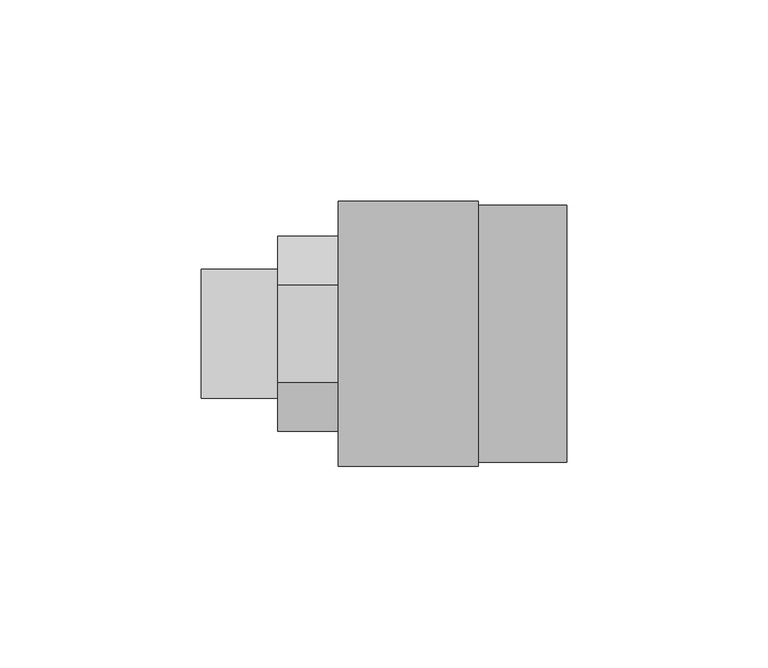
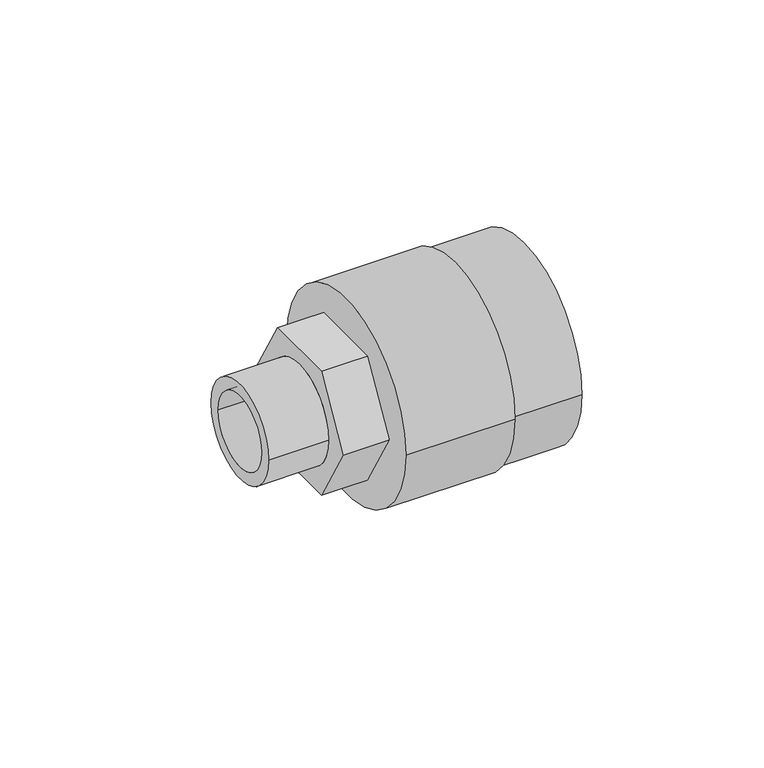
"""IFC4 building model written with IfcOpenShell, lengths in millimetres: pipe fitting geometry, NIRON RED termofusion roscado enlace rosca macho hexagonal : Estándar."""

from ifc_helpers import new_model, si_unit, point, frame, origin, origin_2d, place, context, project, spatial, polyline, circle_curve, trimmed, segment, composite_curve, outline, extrude, source, transform, mapped, element, save
from ifc_brep_helpers import plane_surface, cylinder_surface, revolved_surface, advanced_brep


def pipe_fitting_6e0105d2(model_context):
    return source(origin(), model_context, "Body", "SolidModel", [
        extrude(outline(composite_curve([segment(trimmed(circle_curve(origin_2d(), 16.0), [point((-16.0, 0.0))], [point((16.0, 0.0))], False, "CARTESIAN"), True, "CONTINUOUS"), segment(trimmed(circle_curve(origin_2d(), 16.0), [point((16.0, 0.0))], [point((-16.0, 0.0))], False, "CARTESIAN"), True, "CONTINUOUS")], self_intersect=False), holes=[composite_curve([segment(trimmed(circle_curve(origin_2d(), 12.0), [point((-12.0, 0.0))], [point((12.0, 0.0))], True, "CARTESIAN"), True, "CONTINUOUS"), segment(trimmed(circle_curve(origin_2d(), 12.0), [point((12.0, 0.0))], [point((-12.0, 0.0))], True, "CARTESIAN"), True, "CONTINUOUS")], self_intersect=False)]), frame((-19.1, 0.0, 0.0), z_axis=(1.0, 0.0, 0.0), x_axis=(0.0, 1.0, 0.0)), (0.0, 0.0, 1.0), 19.1),
        advanced_brep(
        [(49.9, 33.0, 0.0), (49.9, -33.0, 0.0), (15.0, 33.0, 0.0), (15.0, -33.0, 0.0), (15.0, -16.0, 0.0), (15.0, 16.0, 0.0), (23.7, 16.0, 0.0), (23.7, -16.0, 0.0)],
        [
            (0, 1, circle_curve(frame((49.9, 0.0, 0.0), z_axis=(1.0, 0.0, 0.0), x_axis=(0.0, -1.0, 0.0)), 33.0)),
            (1, 0, circle_curve(frame((49.9, 0.0, 0.0), z_axis=(1.0, 0.0, 0.0), x_axis=(0.0, -1.0, 0.0)), 33.0)),
            (2, 3, circle_curve(frame((15.0, 0.0, 0.0), z_axis=(-1.0, 0.0, 0.0), x_axis=(0.0, -1.0, 0.0)), 33.0)),
            (3, 2, circle_curve(frame((15.0, 0.0, 0.0), z_axis=(-1.0, 0.0, 0.0), x_axis=(0.0, -1.0, 0.0)), 33.0)),
            (4, 5, circle_curve(frame((15.0, 0.0, 0.0), z_axis=(1.0, 0.0, 0.0), x_axis=(0.0, -1.0, 0.0)), 16.0)),
            (5, 4, circle_curve(frame((15.0, 0.0, 0.0), z_axis=(1.0, 0.0, 0.0), x_axis=(0.0, -1.0, 0.0)), 16.0)),
            (1, 3),
            (2, 0),
            (6, 7, circle_curve(frame((23.7, 0.0, 0.0), z_axis=(-1.0, 0.0, 0.0), x_axis=(0.0, -1.0, 0.0)), 16.0)),
            (7, 6, circle_curve(frame((23.7, 0.0, 0.0), z_axis=(-1.0, 0.0, 0.0), x_axis=(0.0, -1.0, 0.0)), 16.0)),
            (6, 5),
            (4, 7),
        ],
        [
            plane_surface(frame((49.9, -33.0, 0.0), z_axis=(1.0, 0.0, 0.0), x_axis=(0.0, 0.0, -1.0))),
            plane_surface(frame((15.0, -33.0, 0.0), z_axis=(-1.0, 0.0, 0.0), x_axis=(0.0, 0.0, 1.0))),
            cylinder_surface(frame((49.9, 0.0, 0.0), z_axis=(-1.0, 0.0, 0.0), x_axis=(0.0, -1.0, 0.0)), 33.0),
            plane_surface(frame((23.7, -16.0, 0.0), z_axis=(-1.0, 0.0, 0.0), x_axis=(0.0, 0.0, -1.0))),
            revolved_surface(polyline([(15.0, -16.0, 0.0), (23.7, -16.0, 0.0)]), (23.7, 0.0, 0.0), (-1.0, 0.0, 0.0)),
        ],
        [
            (0, [[1, 2]]),
            (1, [[3, 4], [5, 6]]),
            (2, [[-2, 7, -3, 8]]),
            (2, [[-1, -8, -4, -7]]),
            (3, [[9, 10]]),
            (4, [[-9, 11, -5, 12]]),
            (4, [[-10, -12, -6, -11]]),
        ],
    ),
        advanced_brep(
        [(15.0, 32.0, 0.0), (15.0, -32.0, 0.0), (15.0, -16.0, 0.0), (15.0, 16.0, 0.0), (71.9, 32.0, 0.0), (71.9, -32.0, 0.0), (23.7, 16.0, 0.0), (23.7, -16.0, 0.0)],
        [
            (0, 1, circle_curve(frame((15.0, 0.0, 0.0), z_axis=(-1.0, 0.0, 0.0), x_axis=(0.0, -1.0, 0.0)), 32.0)),
            (1, 0, circle_curve(frame((15.0, 0.0, 0.0), z_axis=(-1.0, 0.0, 0.0), x_axis=(0.0, -1.0, 0.0)), 32.0)),
            (2, 3, circle_curve(frame((15.0, 0.0, 0.0), z_axis=(1.0, 0.0, 0.0), x_axis=(0.0, -1.0, 0.0)), 16.0)),
            (3, 2, circle_curve(frame((15.0, 0.0, 0.0), z_axis=(1.0, 0.0, 0.0), x_axis=(0.0, -1.0, 0.0)), 16.0)),
            (4, 5, circle_curve(frame((71.9, 0.0, 0.0), z_axis=(1.0, 0.0, 0.0), x_axis=(0.0, -1.0, 0.0)), 32.0)),
            (5, 4, circle_curve(frame((71.9, 0.0, 0.0), z_axis=(1.0, 0.0, 0.0), x_axis=(0.0, -1.0, 0.0)), 32.0)),
            (0, 4),
            (5, 1),
            (6, 7, circle_curve(frame((23.7, 0.0, 0.0), z_axis=(-1.0, 0.0, 0.0), x_axis=(0.0, -1.0, 0.0)), 16.0)),
            (7, 6, circle_curve(frame((23.7, 0.0, 0.0), z_axis=(-1.0, 0.0, 0.0), x_axis=(0.0, -1.0, 0.0)), 16.0)),
            (6, 3),
            (2, 7),
        ],
        [
            plane_surface(frame((15.0, -32.0, 0.0), z_axis=(-1.0, 0.0, 0.0), x_axis=(0.0, 0.0, 1.0))),
            plane_surface(frame((71.9, -32.0, 0.0), z_axis=(1.0, 0.0, 0.0), x_axis=(0.0, 0.0, -1.0))),
            cylinder_surface(frame((71.9, 0.0, 0.0), z_axis=(-1.0, 0.0, 0.0), x_axis=(0.0, -1.0, 0.0)), 32.0),
            plane_surface(frame((23.7, -16.0, 0.0), z_axis=(-1.0, 0.0, 0.0), x_axis=(0.0, 0.0, -1.0))),
            revolved_surface(polyline([(15.0, -16.0, 0.0), (23.7, -16.0, 0.0)]), (23.7, 0.0, 0.0), (-1.0, 0.0, 0.0)),
        ],
        [
            (0, [[1, 2], [3, 4]]),
            (1, [[5, 6]]),
            (2, [[-1, 7, -6, 8]]),
            (2, [[-2, -8, -5, -7]]),
            (3, [[9, 10]]),
            (4, [[-9, 11, -3, 12]]),
            (4, [[-10, -12, -4, -11]]),
        ],
    ),
        advanced_brep(
        [(45.0, -12.1243557, -21.0), (45.0, 12.1243557, -21.0), (45.0, 24.2487113, 0.0), (45.0, 12.1243557, 21.0), (45.0, -12.1243557, 21.0), (45.0, -24.2487113, 0.0), (0.0, -12.1243557, -21.0), (0.0, -24.2487113, 0.0), (0.0, -12.1243557, 21.0), (0.0, 12.1243557, 21.0), (0.0, 24.2487113, 0.0), (0.0, 12.1243557, -21.0), (0.0, -16.0, 0.0), (0.0, 16.0, 0.0), (23.7, 16.0, 0.0), (23.7, -16.0, 0.0)],
        [
            (0, 1),
            (1, 2),
            (2, 3),
            (3, 4),
            (4, 5),
            (5, 0),
            (6, 7),
            (7, 8),
            (8, 9),
            (9, 10),
            (10, 11),
            (11, 6),
            (12, 13, circle_curve(frame((0.0, 0.0, 0.0), z_axis=(1.0, 0.0, 0.0), x_axis=(0.0, -1.0, 0.0)), 16.0)),
            (13, 12, circle_curve(frame((0.0, 0.0, 0.0), z_axis=(1.0, 0.0, 0.0), x_axis=(0.0, -1.0, 0.0)), 16.0)),
            (0, 6),
            (11, 1),
            (10, 2),
            (9, 3),
            (8, 4),
            (7, 5),
            (14, 15, circle_curve(frame((23.7, 0.0, 0.0), z_axis=(-1.0, 0.0, 0.0), x_axis=(0.0, -1.0, 0.0)), 16.0)),
            (15, 14, circle_curve(frame((23.7, 0.0, 0.0), z_axis=(-1.0, 0.0, 0.0), x_axis=(0.0, -1.0, 0.0)), 16.0)),
            (14, 13),
            (12, 15),
        ],
        [
            plane_surface(frame((45.0, 0.0, 0.0), z_axis=(1.0, 0.0, 0.0), x_axis=(0.0, 0.0, 1.0))),
            plane_surface(frame((0.0, 0.0, 0.0), z_axis=(-1.0, 0.0, 0.0), x_axis=(0.0, 0.0, 1.0))),
            plane_surface(frame((45.0, -12.1243557, -21.0), z_axis=(0.0, 0.0, -1.0), x_axis=(-1.0, 0.0, 0.0))),
            plane_surface(frame((45.0, 12.1243557, -21.0), z_axis=(0.0, 0.8660254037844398, -0.49999999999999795), x_axis=(-1.0, 0.0, 0.0))),
            plane_surface(frame((45.0, 24.2487113, 0.0), z_axis=(0.0, 0.866025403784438, 0.5000000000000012), x_axis=(-1.0, 0.0, 0.0))),
            plane_surface(frame((45.0, 12.1243557, 21.0), z_axis=(0.0, 0.0, 1.0), x_axis=(-1.0, 0.0, 0.0))),
            plane_surface(frame((45.0, -12.1243557, 21.0), z_axis=(0.0, -0.8660254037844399, 0.49999999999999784), x_axis=(-1.0, 0.0, 0.0))),
            plane_surface(frame((45.0, -24.2487113, 0.0), z_axis=(0.0, -0.8660254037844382, -0.500000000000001), x_axis=(-1.0, 0.0, 0.0))),
            plane_surface(frame((23.7, -16.0, 0.0), z_axis=(-1.0, 0.0, 0.0), x_axis=(0.0, 0.0, -1.0))),
            revolved_surface(polyline([(0.0, -16.0, 0.0), (23.7, -16.0, 0.0)]), (23.7, 0.0, 0.0), (-1.0, 0.0, 0.0)),
        ],
        [
            (0, [[1, 2, 3, 4, 5, 6]]),
            (1, [[7, 8, 9, 10, 11, 12], [13, 14]]),
            (2, [[-1, 15, -12, 16]]),
            (3, [[-2, -16, -11, 17]]),
            (4, [[-3, -17, -10, 18]]),
            (5, [[-4, -18, -9, 19]]),
            (6, [[-5, -19, -8, 20]]),
            (7, [[-6, -20, -7, -15]]),
            (8, [[21, 22]]),
            (9, [[-21, 23, -13, 24]]),
            (9, [[-22, -24, -14, -23]]),
        ],
    ),
    ])


if __name__ == "__main__":
    model = new_model("IFC4")
    model_context = context("Model", 3, world=origin())
    ifc_project = project(units=[si_unit("LENGTHUNIT", "METRE", prefix="MILLI")], contexts=[model_context])
    site = spatial("IfcSite", under=ifc_project)
    building = spatial("IfcBuilding", under=site)
    placement = place(None, origin())
    pipe_fitting_shape = pipe_fitting_6e0105d2(model_context)
    element("IfcPipeFitting", 1, ObjectType="NIRON RED termofusion roscado enlace rosca macho hexagonal : Estándar", at=placement, inside=building, context=model_context, shape_type="MappedRepresentation", body=[
        mapped(pipe_fitting_shape, transform((0.0, 0.0, 0.0), x_axis=(1.0, 0.0, 0.0), y_axis=(0.0, 1.0, 0.0), z_axis=(0.0, 0.0, 1.0))),
    ])
    save(model, "model.ifc")
